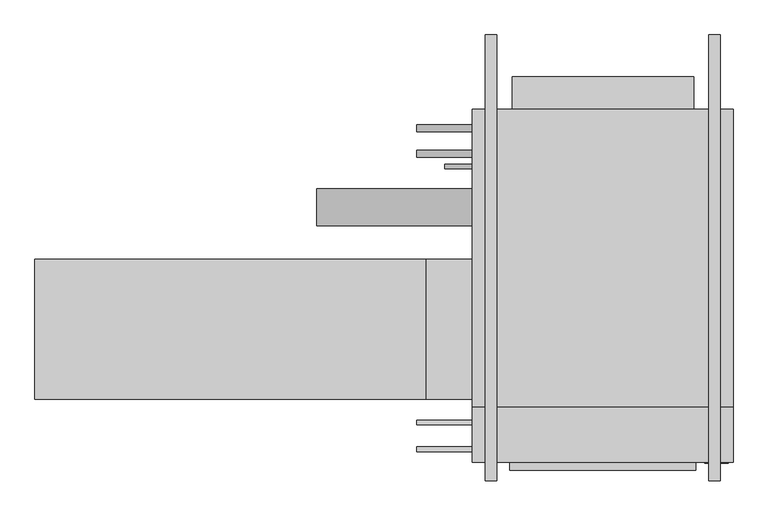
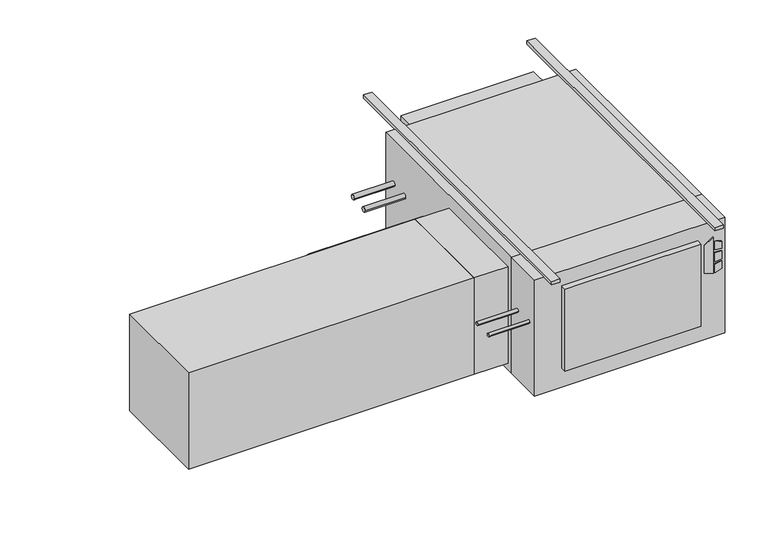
"""IFC4 building model written with IfcOpenShell, lengths in millimetres: proxy geometry."""

from ifc_helpers import new_model, si_unit, point, frame, frame_2d, origin, origin_with_axes, place, context, project, spatial, polyline, circle_curve, trimmed, segment, composite_curve, outline, extrude, source, transform, mapped, element, save


def mechanical_equipment_22c674f3(model_context):
    return source(origin(), model_context, "Body", "SweptSolid", [
        extrude(outline(polyline([(-193.2519297, 430.2868862), (-203.2, 462.4602728), (-61.0290756, 462.4602728), (-84.0510817, 430.2868862), (-193.2519297, 430.2868862)])), frame((0.0, -797.052, 0.0), z_axis=(0.0, 1.0, 0.0), x_axis=(0.0, 0.0, 1.0)), (0.0, 0.0, 1.0), 3.175),
        extrude(outline(polyline([(-114.2526443, 469.2186058), (-117.4550368, 495.3), (-88.2261958, 495.3), (-80.1617807, 469.2186058), (-114.2526443, 469.2186058)])), frame((0.0, -797.052, 0.0), z_axis=(0.0, 1.0, 0.0), x_axis=(0.0, 0.0, 1.0)), (0.0, 0.0, 1.0), 3.175),
        extrude(outline(polyline([(-166.1161712, 495.3), (-169.7816721, 469.2186058), (-203.2, 469.2186058), (-194.5657628, 495.3), (-166.1161712, 495.3)])), frame((0.0, -797.052, 0.0), z_axis=(0.0, 1.0, 0.0), x_axis=(0.0, 0.0, 1.0)), (0.0, 0.0, 1.0), 3.175),
        extrude(outline(polyline([(-126.8010097, 495.3), (-124.5191834, 469.2186058), (-160.4567319, 469.2186058), (-157.7154669, 495.3), (-126.8010097, 495.3)])), frame((0.0, -797.052, 0.0), z_axis=(0.0, 1.0, 0.0), x_axis=(0.0, 0.0, 1.0)), (0.0, 0.0, 1.0), 3.175),
        extrude(outline(polyline([(508.0, -793.877), (-203.2, -793.877), (-203.2, -644.525), (508.0, -644.525), (508.0, -793.877)])), frame((0.0, 0.0, -457.2), z_axis=(0.0, 0.0, 1.0), x_axis=(1.0, 0.0, 0.0)), (0.0, 0.0, 1.0), 457.2),
        extrude(outline(polyline([(406.4, -816.229), (-101.6, -816.229), (-101.6, -793.877), (406.4, -793.877), (406.4, -816.229)])), frame((0.0, 0.0, -381.0), z_axis=(0.0, 0.0, 1.0), x_axis=(1.0, 0.0, 0.0)), (0.0, 0.0, 1.0), 323.85),
        extrude(outline(polyline([(-1397.0, -622.3), (-1397.0, -241.3), (-330.2, -241.3), (-330.2, -622.3), (-1397.0, -622.3)])), frame((0.0, 0.0, -431.8), z_axis=(0.0, 0.0, 1.0), x_axis=(1.0, 0.0, 0.0)), (0.0, 0.0, 1.0), 381.0),
        extrude(outline(polyline([(-203.2, -241.3), (-203.2, -622.3), (-330.2, -622.3), (-330.2, -241.3), (-203.2, -241.3)])), frame((0.0, 0.0, -431.8), z_axis=(0.0, 0.0, 1.0), x_axis=(1.0, 0.0, 0.0)), (0.0, 0.0, 1.0), 381.0),
        extrude(outline(composite_curve([segment(trimmed(circle_curve(frame_2d((-758.825, -184.15)), 6.35), [point((-765.175, -184.15))], [point((-752.475, -184.15))], False, "CARTESIAN"), True, "CONTINUOUS"), segment(trimmed(circle_curve(frame_2d((-758.825, -184.15)), 6.35), [point((-752.475, -184.15))], [point((-765.175, -184.15))], False, "CARTESIAN"), True, "CONTINUOUS")], self_intersect=False)), frame((-355.6, 0.0, 0.0), z_axis=(1.0, 0.0, 0.0), x_axis=(0.0, 1.0, 0.0)), (0.0, 0.0, 1.0), 152.4),
        extrude(outline(composite_curve([segment(trimmed(circle_curve(frame_2d((-685.8, -184.15)), 6.35), [point((-692.15, -184.15))], [point((-679.45, -184.15))], False, "CARTESIAN"), True, "CONTINUOUS"), segment(trimmed(circle_curve(frame_2d((-685.8, -184.15)), 6.35), [point((-679.45, -184.15))], [point((-692.15, -184.15))], False, "CARTESIAN"), True, "CONTINUOUS")], self_intersect=False)), frame((-355.6, 0.0, 0.0), z_axis=(1.0, 0.0, 0.0), x_axis=(0.0, 1.0, 0.0)), (0.0, 0.0, 1.0), 152.4),
        extrude(outline(composite_curve([segment(trimmed(circle_curve(frame_2d((-98.4896516, -228.6360165)), 50.8), [point((-149.2896516, -228.6360165))], [point((-47.6896516, -228.6360165))], False, "CARTESIAN"), True, "CONTINUOUS"), segment(trimmed(circle_curve(frame_2d((-98.4896516, -228.6360165)), 50.8), [point((-47.6896516, -228.6360165))], [point((-149.2896516, -228.6360165))], False, "CARTESIAN"), True, "CONTINUOUS")], self_intersect=False)), frame((-628.65, 0.0, 0.0), z_axis=(1.0, 0.0, 0.0), x_axis=(0.0, 1.0, 0.0)), (0.0, 0.0, 1.0), 425.45),
        extrude(outline(composite_curve([segment(trimmed(circle_curve(frame_2d((47.625, -177.8)), 9.525), [point((38.1, -177.8))], [point((57.15, -177.8))], False, "CARTESIAN"), True, "CONTINUOUS"), segment(trimmed(circle_curve(frame_2d((47.625, -177.8)), 9.525), [point((57.15, -177.8))], [point((38.1, -177.8))], False, "CARTESIAN"), True, "CONTINUOUS")], self_intersect=False)), frame((-355.6, 0.0, 0.0), z_axis=(1.0, 0.0, 0.0), x_axis=(0.0, 1.0, 0.0)), (0.0, 0.0, 1.0), 152.4),
        extrude(outline(composite_curve([segment(trimmed(circle_curve(frame_2d((117.475, -171.45)), 9.525), [point((107.95, -171.45))], [point((127.0, -171.45))], False, "CARTESIAN"), True, "CONTINUOUS"), segment(trimmed(circle_curve(frame_2d((117.475, -171.45)), 9.525), [point((127.0, -171.45))], [point((107.95, -171.45))], False, "CARTESIAN"), True, "CONTINUOUS")], self_intersect=False)), frame((-355.6, 0.0, 0.0), z_axis=(1.0, 0.0, 0.0), x_axis=(0.0, 1.0, 0.0)), (0.0, 0.0, 1.0), 152.4),
        extrude(outline(composite_curve([segment(trimmed(circle_curve(frame_2d((12.7, -409.575)), 6.35), [point((6.35, -409.575))], [point((19.05, -409.575))], False, "CARTESIAN"), True, "CONTINUOUS"), segment(trimmed(circle_curve(frame_2d((12.7, -409.575)), 6.35), [point((19.05, -409.575))], [point((6.35, -409.575))], False, "CARTESIAN"), True, "CONTINUOUS")], self_intersect=False)), frame((-279.4, 0.0, 0.0), z_axis=(1.0, 0.0, 0.0), x_axis=(0.0, 1.0, 0.0)), (0.0, 0.0, 1.0), 76.2),
        extrude(outline(polyline([(508.0, 168.275), (508.0, -644.525), (-203.2, -644.525), (-203.2, 168.275), (508.0, 168.275)])), frame((0.0, 0.0, -457.2), z_axis=(0.0, 0.0, 1.0), x_axis=(1.0, 0.0, 0.0)), (0.0, 0.0, 1.0), 457.2),
        extrude(outline(polyline([(-95.25, 257.175), (400.05, 257.175), (400.05, 168.275), (-95.25, 168.275), (-95.25, 257.175)])), frame((0.0, 0.0, -381.0), z_axis=(0.0, 0.0, 1.0), x_axis=(1.0, 0.0, 0.0)), (0.0, 0.0, 1.0), 355.6),
        extrude(outline(polyline([(-136.525, 371.475), (-136.525, -844.677), (-168.275, -844.677), (-168.275, 371.475), (-136.525, 371.475)])), origin_with_axes(), (0.0, 0.0, 1.0), 12.7),
        extrude(outline(polyline([(473.075, 371.475), (473.075, -844.677), (441.325, -844.677), (441.325, 371.475), (473.075, 371.475)])), origin_with_axes(), (0.0, 0.0, 1.0), 12.7),
    ])


if __name__ == "__main__":
    model = new_model("IFC4")
    model_context = context("Model", 3, world=origin())
    ifc_project = project(units=[si_unit("LENGTHUNIT", "METRE", prefix="MILLI")], contexts=[model_context])
    site = spatial("IfcSite", under=ifc_project)
    building = spatial("IfcBuilding", under=site)
    placement = place(None, origin())
    mechanical_equipment_shape = mechanical_equipment_22c674f3(model_context)
    element("IfcBuildingElementProxy", 1, Name="High_Capacity_Horizontal_Cabinet_Fan_Coil_Unit_-_HTY_-_IEC_-_4-Pipe_WO-Attenuator_LH Side_2022 : Size 08 - 115v/60Hz/1Ph - 4/1 Coil - 4\" AirIn", ObjectType="High_Capacity_Horizontal_Cabinet_Fan_Coil_Unit_-_HTY_-_IEC_-_4-Pipe_WO-Attenuator_LH Side_2022 : Size 08 - 115v/60Hz/1Ph - 4/1 Coil - 4\" AirIn", at=placement, inside=building, context=model_context, shape_type="MappedRepresentation", body=[
        mapped(mechanical_equipment_shape, transform((0.0, 0.0, 0.0), x_axis=(1.0, 0.0, 0.0), y_axis=(0.0, 1.0, 0.0), z_axis=(0.0, 0.0, 1.0))),
    ])
    save(model, "model.ifc")
